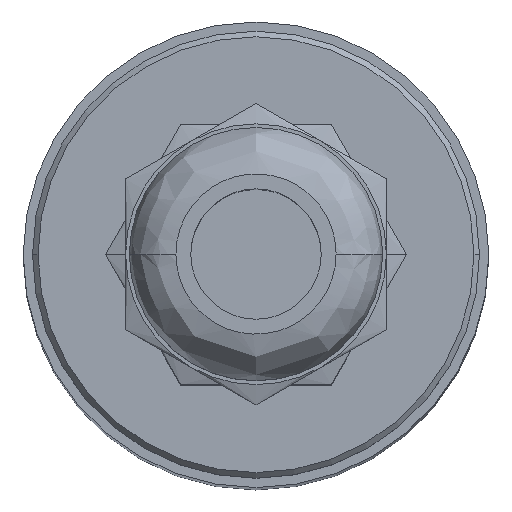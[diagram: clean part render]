
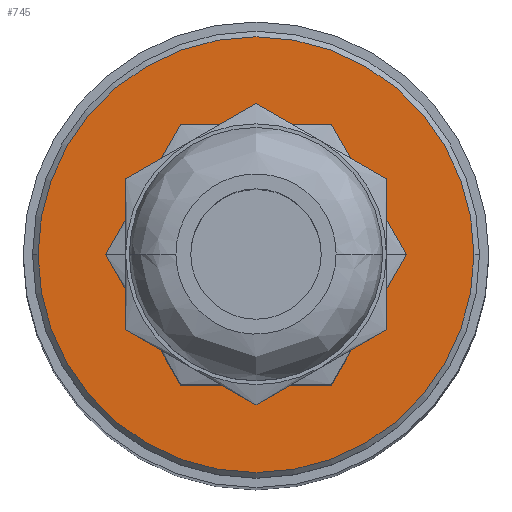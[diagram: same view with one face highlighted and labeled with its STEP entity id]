
A CAD part, top view. The second image highlights one B-rep face of the part: STEP entity #745.
In plain terms, the highlighted planar face has unit normal (0, 0, 1).
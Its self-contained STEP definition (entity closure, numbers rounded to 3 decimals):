
#745=ADVANCED_FACE('NONE',(#1502,#1503),#1504,.F.);
#1502=FACE_OUTER_BOUND('',#2614,.T.);
#1503=FACE_BOUND('',#2615,.T.);
#1504=PLANE('',#2616);
#2614=EDGE_LOOP('',(#4737,#4738));
#2615=EDGE_LOOP('',(#4739,#4740,#4741,#4742,#4743,#4744));
#2616=AXIS2_PLACEMENT_3D('',#4745,#4746,#4747);
#4737=ORIENTED_EDGE('',*,*,#4926,.F.);
#4738=ORIENTED_EDGE('',*,*,#5673,.F.);
#4739=ORIENTED_EDGE('',*,*,#5656,.F.);
#4740=ORIENTED_EDGE('',*,*,#5653,.F.);
#4741=ORIENTED_EDGE('',*,*,#5650,.F.);
#4742=ORIENTED_EDGE('',*,*,#5647,.F.);
#4743=ORIENTED_EDGE('',*,*,#5644,.F.);
#4744=ORIENTED_EDGE('',*,*,#5659,.F.);
#4745=CARTESIAN_POINT('',(0.,71.5,-48.6));
#4746=DIRECTION('',(0.,0.,-1.0));
#4747=DIRECTION('',(0.0,-1.0,0.));
#4926=EDGE_CURVE('NONE',#5871,#5872,#5873,.T.);
#5644=EDGE_CURVE('NONE',#6894,#6896,#6897,.T.);
#5647=EDGE_CURVE('NONE',#6896,#6900,#6901,.T.);
#5650=EDGE_CURVE('NONE',#6900,#6904,#6905,.T.);
#5653=EDGE_CURVE('NONE',#6904,#6908,#6909,.T.);
#5656=EDGE_CURVE('NONE',#6908,#6912,#6913,.T.);
#5659=EDGE_CURVE('NONE',#6912,#6894,#6916,.T.);
#5673=EDGE_CURVE('NONE',#5872,#5871,#6930,.T.);
#5871=VERTEX_POINT('NONE',#7193);
#5872=VERTEX_POINT('NONE',#7194);
#5873=CIRCLE('',#7195,11.7);
#6894=VERTEX_POINT('NONE',#8845);
#6896=VERTEX_POINT('NONE',#8848);
#6897=LINE('',#8849,#8850);
#6900=VERTEX_POINT('NONE',#8854);
#6901=LINE('',#8855,#8856);
#6904=VERTEX_POINT('NONE',#8860);
#6905=LINE('',#8861,#8862);
#6908=VERTEX_POINT('NONE',#8866);
#6909=LINE('',#8867,#8868);
#6912=VERTEX_POINT('NONE',#8872);
#6913=LINE('',#8873,#8874);
#6916=LINE('',#8878,#8879);
#6930=CIRCLE('',#8899,11.7);
#7193=CARTESIAN_POINT('',(-11.7,71.5,-48.6));
#7194=CARTESIAN_POINT('',(11.7,71.5,-48.6));
#7195=AXIS2_PLACEMENT_3D('',#9087,#9088,#9089);
#8845=CARTESIAN_POINT('',(4.041,64.5,-48.6));
#8848=CARTESIAN_POINT('',(8.083,71.5,-48.6));
#8849=CARTESIAN_POINT('',(4.041,64.5,-48.6));
#8850=VECTOR('',#9913,1000.0);
#8854=CARTESIAN_POINT('',(4.041,78.5,-48.6));
#8855=CARTESIAN_POINT('',(8.083,71.5,-48.6));
#8856=VECTOR('',#9915,1000.0);
#8860=CARTESIAN_POINT('',(-4.041,78.5,-48.6));
#8861=CARTESIAN_POINT('',(0.,78.5,-48.6));
#8862=VECTOR('',#9917,1000.0);
#8866=CARTESIAN_POINT('',(-8.083,71.5,-48.6));
#8867=CARTESIAN_POINT('',(-4.041,78.5,-48.6));
#8868=VECTOR('',#9919,1000.0);
#8872=CARTESIAN_POINT('',(-4.041,64.5,-48.6));
#8873=CARTESIAN_POINT('',(-8.083,71.5,-48.6));
#8874=VECTOR('',#9921,1000.0);
#8878=CARTESIAN_POINT('',(0.,64.5,-48.6));
#8879=VECTOR('',#9923,1000.0);
#8899=AXIS2_PLACEMENT_3D('',#9930,#9931,#9932);
#9087=CARTESIAN_POINT('',(0.,71.5,-48.6));
#9088=DIRECTION('',(0.0,0.,-1.0));
#9089=DIRECTION('',(-1.0,0.0,0.0));
#9913=DIRECTION('',(0.5,0.866,0.0));
#9915=DIRECTION('',(-0.5,0.866,0.0));
#9917=DIRECTION('',(-1.0,0.0,0.));
#9919=DIRECTION('',(-0.5,-0.866,0.0));
#9921=DIRECTION('',(0.5,-0.866,0.0));
#9923=DIRECTION('',(1.0,0.0,0.));
#9930=CARTESIAN_POINT('',(0.,71.5,-48.6));
#9931=DIRECTION('',(0.0,0.,-1.0));
#9932=DIRECTION('',(-1.0,0.0,0.0));
